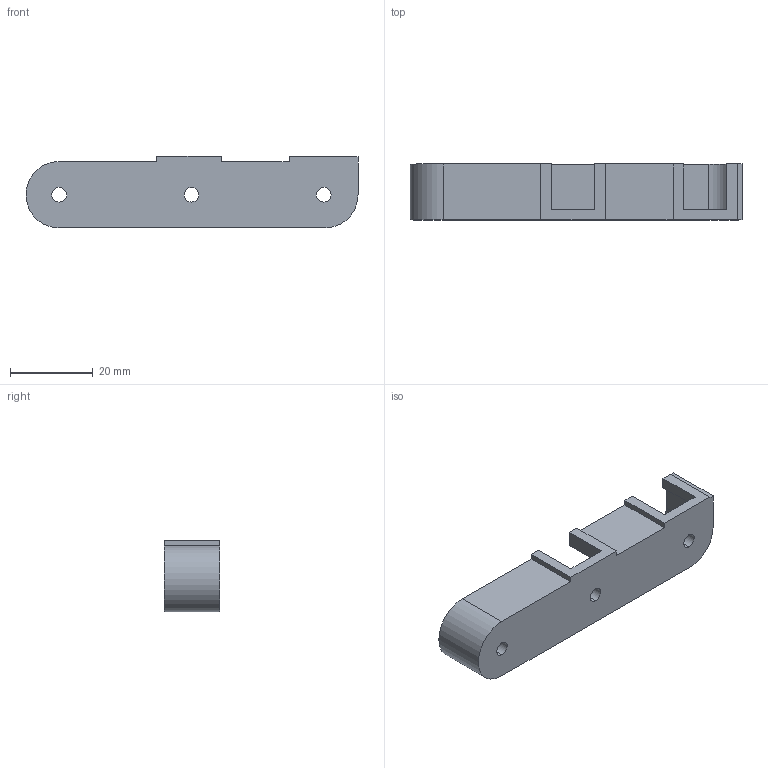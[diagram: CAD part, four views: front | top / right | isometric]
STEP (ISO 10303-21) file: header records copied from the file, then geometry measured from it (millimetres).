
FILE_DESCRIPTION (( 'STEP AP214' ), '1' );
FILE_NAME ('4030_V01_POCKET_SEMI-OPEN_DBL_CLIP_SER.STEP', '2025-06-17T15:18:20', ( '' ), ( '' ), 'SwSTEP 2.0', 'SolidWorks 2025', '' );
FILE_SCHEMA (( 'AUTOMOTIVE_DESIGN' ));
Length unit declared in the file: inch
Products named in the file (1): 4030_V01_POCKET_SEMI-OPEN_DBL_CLIP_SER
Bounding box: 80.34 x 13.54 x 17.41 mm (x, y, z)
Volume: 7630.3 mm3; surface area: 6682 mm2
Topology: 1 solids, 1 shells, 34 faces, 96 edges, 64 vertices
Faces by surface type: plane 24, cylinder 10
Entity records: 1139 total; most frequent: CARTESIAN_POINT 195, ORIENTED_EDGE 192, DIRECTION 186, EDGE_CURVE 96, VECTOR 76, LINE 76, VERTEX_POINT 64, AXIS2_PLACEMENT_3D 55
